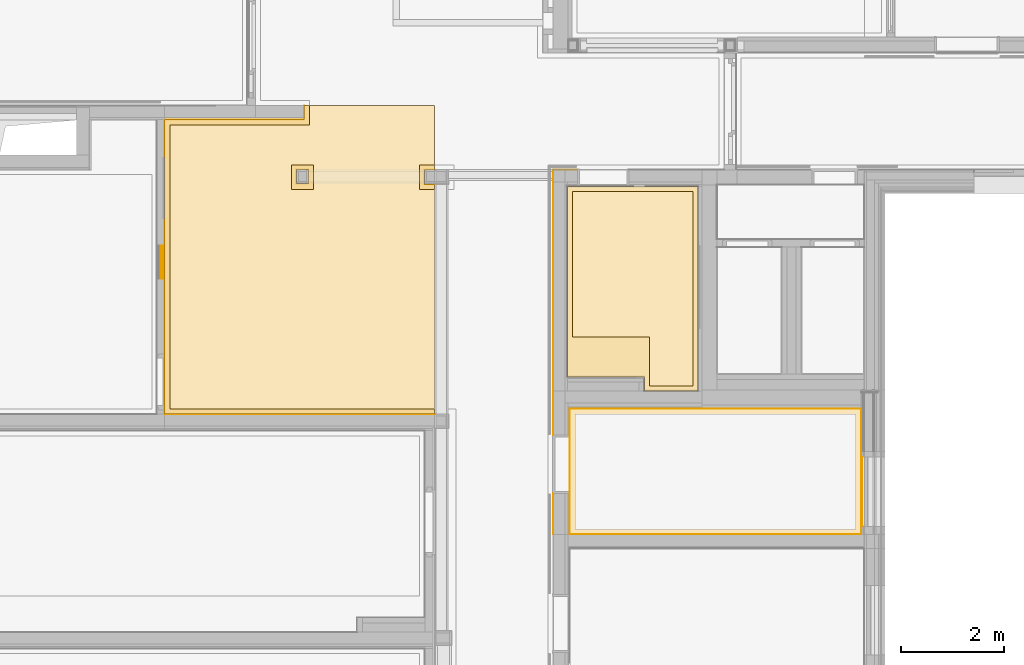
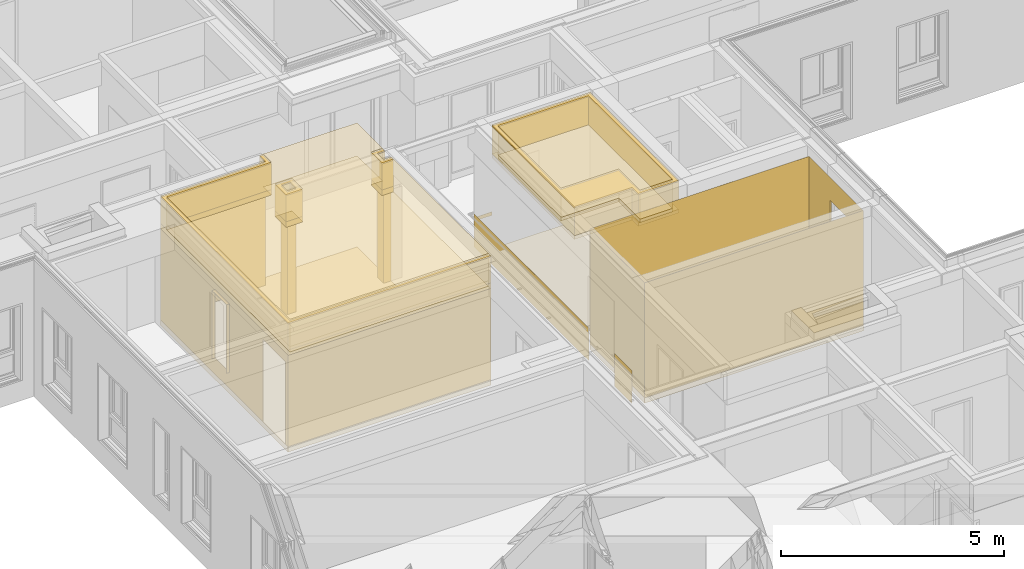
# One storey, part 172 of 222: 23 coverings.
"""IFC4 building model written with IfcOpenShell, lengths in metres."""

from ifc_helpers import new_model, entity, si_unit, converted_unit, derived_unit, frame, frame_2d, origin, origin_with_axes, place, context, subcontext, project, spatial, polyline, rectangle, outline, extrude, material, layer, layer_set, layer_usage, element, save


model = new_model("IFC4")

# Units and contexts
model_context = context("Model", 3, precision=1e-05, world=origin())
body_context = subcontext(model_context, "Body", "Model", "MODEL_VIEW")
ifc_project = project(units=[si_unit("LENGTHUNIT", "METRE"), si_unit("AREAUNIT", "SQUARE_METRE"), si_unit("VOLUMEUNIT", "CUBIC_METRE"), si_unit("MASSUNIT", "GRAM", prefix="KILO"), converted_unit("PLANEANGLEUNIT", "DEGREE", entity("IfcPlaneAngleMeasure", 0.0174532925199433), si_unit("PLANEANGLEUNIT", "RADIAN"), dimensions=[0, 0, 0, 0, 0, 0, 0]), derived_unit("THERMALTRANSMITTANCEUNIT", [(si_unit("POWERUNIT", "WATT"), 1), (si_unit("THERMODYNAMICTEMPERATUREUNIT", "KELVIN"), -1), (si_unit("LENGTHUNIT", "METRE"), -2)]), derived_unit("VOLUMETRICFLOWRATEUNIT", [(si_unit("LENGTHUNIT", "METRE"), 3), (converted_unit("TIMEUNIT", "hour", entity("IfcTimeMeasure", 3600.0), si_unit("TIMEUNIT", "SECOND"), dimensions=[0, 0, 1, 0, 0, 0, 0]), -1), (si_unit("LENGTHUNIT", "METRE"), -1)])], contexts=[model_context])

# Site, building, storey, space
site_placement = place(None, origin())
site = spatial("IfcSite", under=ifc_project, at=site_placement, Name="Psychiatrie Neubau Wunstorf", CompositionType="ELEMENT")
building_placement = place(site_placement, origin())
building = spatial("IfcBuilding", under=site, at=building_placement, Name="Neubau H2 Stationsgebäude", CompositionType="ELEMENT")
storey_placement = place(building_placement, frame((0.0, 0.0, 3.6)))
storey = spatial("IfcBuildingStorey", under=building, at=storey_placement, Name="H2 Ebene +1", CompositionType="ELEMENT", Elevation=3.6)
space_1_placement = place(storey_placement, frame((32.083, 0.550000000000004, 0.0)))
space_1 = spatial("IfcSpace", under=storey, at=space_1_placement, Name="WUN-H2-E01-F03", CompositionType="ELEMENT")

# Coverings
ifc_material_1 = material(Name="84")
ifc_layer_1 = layer(ifc_material_1, 0.001)
ifc_layer_set_1 = layer_set([ifc_layer_1])
ifc_layer_usage_1 = layer_usage(ifc_layer_set_1, "AXIS3", "POSITIVE", 0.0)
covering_1_placement = place(space_1_placement, frame((5.79949999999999, 12.9394966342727, 0.1)))
element("IfcCovering", 1, at=covering_1_placement, inside=space_1, material=ifc_layer_usage_1, Name="Acrovyn", PredefinedType="CLADDING", context=body_context, shape_type="SweptSolid", body=[
    extrude(rectangle(XDim=5.1609980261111, YDim=0.9, at=frame_2d((-2.58049901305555, 0.45), x_axis=(-1.0, 0.0))), frame((0.0, 7.09650139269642, 0.9), z_axis=(-1.0, -1.40979662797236e-15, -2.84933903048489e-30), x_axis=(-1.40979662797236e-15, 1.0, 0.0)), (0.0, 0.0, 1.0), 0.001),
    extrude(rectangle(XDim=0.9, YDim=0.800503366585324, at=frame_2d((-0.40025168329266, -0.45), x_axis=(4.04219867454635e-15, -1.0))), frame((0.0, 0.800503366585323, 0.0), z_axis=(-1.0, 0.0, 0.0), x_axis=(0.0, 1.0, 0.0)), (0.0, 0.0, 1.0), 0.001),
])
ifc_material_2 = material(Name="97")
ifc_layer_2 = layer(ifc_material_2, 0.001)
ifc_layer_set_2 = layer_set([ifc_layer_2])
ifc_layer_usage_2 = layer_usage(ifc_layer_set_2, "AXIS3", "POSITIVE", 0.0)
covering_2_placement = place(space_1_placement, frame((5.79949999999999, 12.9394966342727, 0.8)))
element("IfcCovering", 2, at=covering_2_placement, inside=space_1, material=ifc_layer_usage_2, Name="Handlauf", PredefinedType="CLADDING", context=body_context, shape_type="SweptSolid", body=[
    extrude(rectangle(XDim=5.1609980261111, YDim=0.1, at=frame_2d((-2.58049901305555, 0.05), x_axis=(-1.0, 0.0))), frame((0.0, 7.09650139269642, 0.1), z_axis=(-1.0, -1.40979662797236e-15, -2.5644051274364e-29), x_axis=(-1.40979662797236e-15, 1.0, 0.0)), (0.0, 0.0, 1.0), 0.001),
    extrude(rectangle(XDim=0.1, YDim=0.800503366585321, at=frame_2d((-0.400251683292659, -0.05), x_axis=(1.81898940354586e-14, -1.0))), frame((0.0, 0.800503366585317, 0.0), z_axis=(-1.0, 0.0, 0.0), x_axis=(0.0, 1.0, 0.0)), (0.0, 0.0, 1.0), 0.001),
    extrude(rectangle(XDim=0.467500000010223, YDim=0.1, at=frame_2d((0.233750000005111, -0.05), x_axis=(1.0, 0.0))), frame((0.0, 7.09650139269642, 0.0), z_axis=(0.0, 1.0, 0.0), x_axis=(1.0, 0.0, 0.0)), (0.0, 0.0, 1.0), 0.001),
])

# Space
space_2_placement = place(storey_placement, frame((38.1545, 16.2820060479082, 0.0)))
space_2 = spatial("IfcSpace", under=storey, at=space_2_placement, Name="WUN-H2-E01-009", CompositionType="ELEMENT")

# Coverings
ifc_material_3 = material()
ifc_layer_3 = layer(ifc_material_3, 0.036)
ifc_layer_set_3 = layer_set([ifc_layer_3])
ifc_layer_usage_3 = layer_usage(ifc_layer_set_3, "AXIS3", "POSITIVE", 0.0)
covering_3_placement = place(space_2_placement, frame((0.1, 0.0999999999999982, 3.55)))
element("IfcCovering", 3, at=covering_3_placement, inside=space_2, material=ifc_layer_usage_3, Name="Gipsfaserplatten 2-lagig (BSK)", PredefinedType="CEILING", context=body_context, shape_type="SweptSolid", body=[
    extrude(outline(polyline([(0.0, 0.0), (2.34950000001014, 0.0), (2.34950000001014, 3.78149197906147), (1.4995, 3.7819919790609), (1.4995, 2.83249197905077), (0.0, 2.83199197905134), (0.0, 0.0)])), frame((0.0, 3.7819919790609, 0.0), z_axis=(0.0, 0.0, -1.0), x_axis=(1.0, 0.0, 0.0)), (0.0, 0.0, 1.0), 0.036),
])
ifc_material_4 = material(Name="Installationshöhe")
ifc_layer_4 = layer(ifc_material_4, 0.764)
ifc_layer_set_4 = layer_set([ifc_layer_4])
ifc_layer_usage_4 = layer_usage(ifc_layer_set_4, "AXIS3", "POSITIVE", 0.0)
covering_4_placement = place(space_2_placement, frame((0.1, 0.0999999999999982, 3.514)))
element("IfcCovering", 4, at=covering_4_placement, inside=space_2, material=ifc_layer_usage_4, Name="Gipsfaserplatten 2-lagig (BSK)", PredefinedType="CEILING", context=body_context, shape_type="SweptSolid", body=[
    extrude(outline(polyline([(0.0, 0.0), (2.34950000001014, 0.0), (2.34950000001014, 3.78149197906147), (1.4995, 3.7819919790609), (1.4995, 2.83249197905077), (0.0, 2.83199197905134), (0.0, 0.0)])), frame((0.0, 3.7819919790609, 0.0), z_axis=(0.0, 0.0, -1.0), x_axis=(1.0, 0.0, 0.0)), (0.0, 0.0, 1.0), 0.764),
])
ifc_material_5 = material(Name="H7a")
ifc_layer_5 = layer(ifc_material_5, 0.1)
ifc_layer_set_5 = layer_set([ifc_layer_5])
ifc_layer_usage_5 = layer_usage(ifc_layer_set_5, "AXIS3", "POSITIVE", 0.0)
covering_5_placement = place(space_2_placement, frame((0.1, 0.0999999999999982, 2.75)))
element("IfcCovering", 5, at=covering_5_placement, inside=space_2, material=ifc_layer_usage_5, Name="Kühldecke glatt", PredefinedType="CEILING", context=body_context, shape_type="SweptSolid", body=[
    extrude(outline(polyline([(0.0, 0.0), (2.34950000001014, 0.0), (2.34950000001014, 3.78149197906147), (1.4995, 3.7819919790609), (1.4995, 2.83249197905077), (0.0, 2.83199197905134), (0.0, 0.0)])), frame((0.0, 3.7819919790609, 0.0), z_axis=(0.0, 0.0, -1.0), x_axis=(1.0, 0.0, 0.0)), (0.0, 0.0, 1.0), 0.1),
])
ifc_material_6 = material(Name="D1")
ifc_layer_6 = layer(ifc_material_6, 0.001)
ifc_layer_set_6 = layer_set([ifc_layer_6])
ifc_layer_usage_6 = layer_usage(ifc_layer_set_6, "AXIS3", "POSITIVE", 0.0)
covering_6_placement = place(space_2_placement, frame((0.1, 0.0999999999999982, 2.65)))
element("IfcCovering", 6, at=covering_6_placement, inside=space_2, material=ifc_layer_usage_6, Name="Gipsfaserplatten 2-lagig (BSK)", PredefinedType="CEILING", context=body_context, shape_type="SweptSolid", body=[
    extrude(outline(polyline([(0.0, 0.0), (2.34950000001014, 0.0), (2.34950000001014, 3.78149197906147), (1.4995, 3.7819919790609), (1.4995, 2.83249197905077), (0.0, 2.83199197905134), (0.0, 0.0)])), frame((0.0, 3.7819919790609, 0.0), z_axis=(0.0, 0.0, -1.0), x_axis=(1.0, 0.0, 0.0)), (0.0, 0.0, 1.0), 0.001),
])
ifc_material_7 = material(Name="Ku1")
ifc_layer_7 = layer(ifc_material_7, 0.15)
ifc_layer_set_7 = layer_set([ifc_layer_7])
ifc_layer_usage_7 = layer_usage(ifc_layer_set_7, "AXIS3", "POSITIVE", 0.0)
covering_7_placement = place(space_2_placement, origin())
element("IfcCovering", 7, at=covering_7_placement, inside=space_2, material=ifc_layer_usage_7, Name="PVC Bahnenware Holzoptik", PredefinedType="FLOORING", context=body_context, shape_type="SweptSolid", body=[
    extrude(outline(polyline([(0.0, 3.9819919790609), (0.0, 0.275499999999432), (1.4995, 0.275), (1.4995, 0.0), (2.54950000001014, 0.000499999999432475), (2.54950000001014, 3.9819919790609), (0.0, 3.9819919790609)])), origin_with_axes(), (0.0, 0.0, 1.0), 0.15),
])
ifc_material_8 = material()
ifc_layer_8 = layer(ifc_material_8, 0.036)
ifc_layer_set_8 = layer_set([ifc_layer_8])
ifc_layer_usage_8 = layer_usage(ifc_layer_set_8, "AXIS3", "POSITIVE", 0.0)
covering_8_placement = place(space_2_placement, frame((0.0, 0.0, 3.55)))
element("IfcCovering", 8, at=covering_8_placement, inside=space_2, material=ifc_layer_usage_8, Name="Gipsfaserplatten 2-lagig (BSK)", PredefinedType="CEILING", context=body_context, shape_type="SweptSolid", body=[
    extrude(outline(polyline([(0.0, 3.70649197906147), (0.0, 0.0), (2.54950000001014, 0.0), (2.54950000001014, 3.98149197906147), (1.4995, 3.9819919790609), (1.4995, 3.7069919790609), (0.0, 3.70649197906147)]), holes=[polyline([(2.44950000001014, 0.1), (0.1, 0.1), (0.100000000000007, 2.93199197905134), (1.5995, 2.93249197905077), (1.5995, 3.8819919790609), (2.44950000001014, 3.88149197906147), (2.44950000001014, 0.1)])]), frame((0.0, 3.9819919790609, 0.0), z_axis=(0.0, 0.0, -1.0), x_axis=(1.0, 0.0, 0.0)), (0.0, 0.0, 1.0), 0.036),
])
ifc_material_9 = material(Name="Installationshöhe")
ifc_layer_9 = layer(ifc_material_9, 0.764)
ifc_layer_set_9 = layer_set([ifc_layer_9])
ifc_layer_usage_9 = layer_usage(ifc_layer_set_9, "AXIS3", "POSITIVE", 0.0)
covering_9_placement = place(space_2_placement, frame((0.0, 0.0, 3.514)))
element("IfcCovering", 9, at=covering_9_placement, inside=space_2, material=ifc_layer_usage_9, Name="Gipsfaserplatten 2-lagig (BSK)", PredefinedType="CEILING", context=body_context, shape_type="SweptSolid", body=[
    extrude(outline(polyline([(0.0, 3.70649197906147), (0.0, 0.0), (2.54950000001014, 0.0), (2.54950000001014, 3.98149197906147), (1.4995, 3.9819919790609), (1.4995, 3.7069919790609), (0.0, 3.70649197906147)]), holes=[polyline([(2.44950000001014, 0.1), (0.1, 0.1), (0.100000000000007, 2.93199197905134), (1.5995, 2.93249197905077), (1.5995, 3.8819919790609), (2.44950000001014, 3.88149197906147), (2.44950000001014, 0.1)])]), frame((0.0, 3.9819919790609, 0.0), z_axis=(0.0, 0.0, -1.0), x_axis=(1.0, 0.0, 0.0)), (0.0, 0.0, 1.0), 0.764),
])
ifc_material_10 = material(Name="H7a")
ifc_layer_10 = layer(ifc_material_10, 0.1)
ifc_layer_set_10 = layer_set([ifc_layer_10])
ifc_layer_usage_10 = layer_usage(ifc_layer_set_10, "AXIS3", "POSITIVE", 0.0)
covering_10_placement = place(space_2_placement, frame((0.0, 0.0, 2.75)))
element("IfcCovering", 10, at=covering_10_placement, inside=space_2, material=ifc_layer_usage_10, Name="Kühldecke glatt", PredefinedType="CEILING", context=body_context, shape_type="SweptSolid", body=[
    extrude(outline(polyline([(0.0, 3.70649197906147), (0.0, 0.0), (2.54950000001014, 0.0), (2.54950000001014, 3.98149197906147), (1.4995, 3.9819919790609), (1.4995, 3.7069919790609), (0.0, 3.70649197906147)]), holes=[polyline([(2.44950000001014, 0.1), (0.1, 0.1), (0.100000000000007, 2.93199197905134), (1.5995, 2.93249197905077), (1.5995, 3.8819919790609), (2.44950000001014, 3.88149197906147), (2.44950000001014, 0.1)])]), frame((0.0, 3.9819919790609, 0.0), z_axis=(0.0, 0.0, -1.0), x_axis=(1.0, 0.0, 0.0)), (0.0, 0.0, 1.0), 0.1),
])
ifc_material_11 = material(Name="D1")
ifc_layer_11 = layer(ifc_material_11, 0.001)
ifc_layer_set_11 = layer_set([ifc_layer_11])
ifc_layer_usage_11 = layer_usage(ifc_layer_set_11, "AXIS3", "POSITIVE", 0.0)
covering_11_placement = place(space_2_placement, frame((0.0, 0.0, 2.65)))
element("IfcCovering", 11, at=covering_11_placement, inside=space_2, material=ifc_layer_usage_11, Name="Gipsfaserplatten 2-lagig (BSK)", PredefinedType="CEILING", context=body_context, shape_type="SweptSolid", body=[
    extrude(outline(polyline([(0.0, 3.70649197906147), (0.0, 0.0), (2.54950000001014, 0.0), (2.54950000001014, 3.98149197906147), (1.4995, 3.9819919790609), (1.4995, 3.7069919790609), (0.0, 3.70649197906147)]), holes=[polyline([(2.44950000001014, 0.1), (0.1, 0.1), (0.100000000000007, 2.93199197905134), (1.5995, 2.93249197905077), (1.5995, 3.8819919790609), (2.44950000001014, 3.88149197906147), (2.44950000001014, 0.1)])]), frame((0.0, 3.9819919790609, 0.0), z_axis=(0.0, 0.0, -1.0), x_axis=(1.0, 0.0, 0.0)), (0.0, 0.0, 1.0), 0.001),
])

# Space
space_3_placement = place(storey_placement, frame((38.204, 13.4894966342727, 0.0)))
space_3 = spatial("IfcSpace", under=storey, at=space_3_placement, Name="WUN-H2-E01-010", CompositionType="ELEMENT")

# Coverings
ifc_material_12 = material(Name="Ku1")
ifc_layer_12 = layer(ifc_material_12, 0.15)
ifc_layer_set_12 = layer_set([ifc_layer_12])
ifc_layer_usage_12 = layer_usage(ifc_layer_set_12, "AXIS3", "POSITIVE", 0.0)
covering_12_placement = place(space_3_placement, origin())
element("IfcCovering", 12, at=covering_12_placement, inside=space_3, material=ifc_layer_usage_12, Name="PVC Bahnenware Holzoptik", PredefinedType="FLOORING", context=body_context, shape_type="SweptSolid", body=[
    extrude(outline(polyline([(0.0, 2.44600941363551), (0.000500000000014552, 0.0), (5.67600000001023, 0.0), (5.67600000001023, 2.44600941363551), (0.0, 2.44600941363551)])), origin_with_axes(), (0.0, 0.0, 1.0), 0.15),
])
ifc_material_13 = material(Name="49")
ifc_layer_13 = layer(ifc_material_13, 0.001)
ifc_layer_set_13 = layer_set([ifc_layer_13])
ifc_layer_usage_13 = layer_usage(ifc_layer_set_13, "AXIS3", "POSITIVE", 0.0)
covering_13_placement = place(space_3_placement, frame((0.0, 0.0, 0.15)))
element("IfcCovering", 13, at=covering_13_placement, inside=space_3, material=ifc_layer_usage_13, PredefinedType="CLADDING", context=body_context, shape_type="SweptSolid", body=[
    extrude(outline(polyline([(0.0, 3.15), (2.44600941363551, 3.15), (2.44600941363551, 0.0), (0.0, 0.0), (0.0, 3.15)]), holes=[polyline([(1.50550276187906, 2.75), (0.155502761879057, 2.75), (0.155502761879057, 0.635), (1.50550276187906, 0.635), (1.50550276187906, 2.75)])]), frame((5.67600000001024, 0.0, 3.15), z_axis=(-1.0, 0.0, 0.0), x_axis=(0.0, 1.0, 0.0)), (0.0, 0.0, 1.0), 0.001),
    extrude(rectangle(XDim=5.67600000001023, YDim=3.15, at=frame_2d((2.83800000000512, -1.575), x_axis=(1.0, 0.0))), frame((5.67600000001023, 2.44600941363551, 0.0), z_axis=(0.0, -1.0, 0.0), x_axis=(-1.0, 0.0, 0.0)), (0.0, 0.0, 1.0), 0.001),
    extrude(rectangle(XDim=2.44600946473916, YDim=3.15, at=frame_2d((1.22300473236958, -1.575), x_axis=(1.0, 0.0))), frame((0.0, 2.44600941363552, 0.0), z_axis=(0.999999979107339, 0.000204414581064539, 0.0), x_axis=(0.000204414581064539, -0.999999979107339, 0.0)), (0.0, 0.0, 1.0), 0.001),
    extrude(rectangle(XDim=5.67550000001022, YDim=3.15, at=frame_2d((2.83775000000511, -1.575), x_axis=(1.0, 0.0))), frame((0.000500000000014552, 0.0, 0.0), z_axis=(0.0, 1.0, 0.0), x_axis=(1.0, 0.0, 0.0)), (0.0, 0.0, 1.0), 0.001),
    extrude(rectangle(XDim=0.04, YDim=1.35, at=frame_2d((0.02, -0.674999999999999), x_axis=(1.0, 0.0))), frame((5.67600000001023, 0.155502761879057, 2.515), z_axis=(0.0, 0.0, -1.0), x_axis=(1.0, 0.0, 0.0)), (0.0, 0.0, 1.0), 0.001),
    extrude(rectangle(XDim=0.04, YDim=2.115, at=frame_2d((0.02, -1.0575), x_axis=(1.0, 0.0))), frame((5.67600000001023, 0.155502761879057, 0.4), z_axis=(0.0, 1.0, 0.0), x_axis=(1.0, 0.0, 0.0)), (0.0, 0.0, 1.0), 0.001),
    extrude(rectangle(XDim=2.115, YDim=0.04, at=frame_2d((-0.02, -1.0575), x_axis=(0.0, -1.0))), frame((5.67600000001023, 1.50550276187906, 0.4), z_axis=(-4.54747350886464e-14, -1.0, 0.0), x_axis=(-1.0, 4.54747350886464e-14, 0.0)), (0.0, 0.0, 1.0), 0.001),
])

# Space
space_4_placement = place(storey_placement, frame((30.3168490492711, 15.8324990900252, 0.0)))
space_4 = spatial("IfcSpace", under=storey, at=space_4_placement, Name="WUN-H2-E01-F03a", CompositionType="ELEMENT")

# Coverings
ifc_material_14 = material(Name="Ku1")
ifc_layer_14 = layer(ifc_material_14, 0.15)
ifc_layer_set_14 = layer_set([ifc_layer_14])
ifc_layer_usage_14 = layer_usage(ifc_layer_set_14, "AXIS3", "POSITIVE", 0.0)
covering_14_placement = place(space_4_placement, origin())
element("IfcCovering", 14, at=covering_14_placement, inside=space_4, material=ifc_layer_usage_14, Name="PVC Bahnenware Holzoptik", PredefinedType="FLOORING", context=body_context, shape_type="SweptSolid", body=[
    extrude(outline(polyline([(5.25315095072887, 0.0), (5.25315095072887, 4.47149724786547), (5.05714850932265, 4.47149724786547), (5.05714850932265, 4.75349724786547), (5.25315095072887, 4.75349724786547), (5.25315095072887, 6.00350090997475), (2.71615095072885, 6.00350090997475), (2.71615095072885, 5.73150090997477), (0.0, 5.73150090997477), (0.0, 0.0), (5.25315095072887, 0.0)]), holes=[polyline([(2.79814655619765, 4.48749821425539), (2.56614655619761, 4.48749821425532), (2.56615095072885, 4.75949990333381), (2.79814655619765, 4.75949990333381), (2.79814655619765, 4.48749821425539)])]), origin_with_axes(), (0.0, 0.0, 1.0), 0.15),
])
ifc_material_15 = material()
ifc_layer_15 = layer(ifc_material_15, 0.036)
ifc_layer_set_15 = layer_set([ifc_layer_15])
ifc_layer_usage_15 = layer_usage(ifc_layer_set_15, "AXIS3", "POSITIVE", 0.0)
covering_15_placement = place(space_4_placement, frame((0.0, 0.0, 3.55)))
element("IfcCovering", 15, at=covering_15_placement, inside=space_4, material=ifc_layer_usage_15, Name="Gipsfaserplatten 2-lagig (BSK)", PredefinedType="CEILING", context=body_context, shape_type="SweptSolid", body=[
    extrude(outline(polyline([(5.25315095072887, 6.00350090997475), (0.0, 6.00350090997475), (0.0, 0.271999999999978), (2.71615095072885, 0.271999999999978), (2.71615095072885, 0.0), (2.81615095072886, 0.0), (2.81615095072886, 0.37199999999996), (0.1, 0.37199999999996), (0.1, 5.90350090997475), (5.25315095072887, 5.90350090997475), (5.25315095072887, 6.00350090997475)])), frame((0.0, 6.00350090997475, 0.0), z_axis=(0.0, 0.0, -1.0), x_axis=(1.0, 0.0, 0.0)), (0.0, 0.0, 1.0), 0.036),
    extrude(outline(polyline([(0.431995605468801, 0.482), (0.0, 0.482), (0.0, 0.0), (0.431995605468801, 0.0), (0.431995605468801, 0.482)]), holes=[polyline([(0.331995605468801, 0.365999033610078), (0.331995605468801, 0.0939973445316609), (0.1, 0.0939973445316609), (0.0999956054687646, 0.365999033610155), (0.331995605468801, 0.365999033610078)])]), frame((2.46615095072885, 4.85349724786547, 0.0), z_axis=(0.0, 0.0, -1.0), x_axis=(1.0, 0.0, 0.0)), (0.0, 0.0, 1.0), 0.036),
    extrude(outline(polyline([(0.0, 0.0), (0.296002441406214, 0.0), (0.296002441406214, 0.1), (0.1, 0.1), (0.1, 0.382), (0.296002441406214, 0.382), (0.296002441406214, 0.481998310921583), (0.0, 0.481998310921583), (0.0, 0.0)])), frame((4.95714850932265, 4.85349724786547, 0.0), z_axis=(0.0, 0.0, -1.0), x_axis=(1.0, 0.0, 0.0)), (0.0, 0.0, 1.0), 0.036),
])
ifc_material_16 = material(Name="Installationshöhe")
ifc_layer_16 = layer(ifc_material_16, 0.714)
ifc_layer_set_16 = layer_set([ifc_layer_16])
ifc_layer_usage_16 = layer_usage(ifc_layer_set_16, "AXIS3", "POSITIVE", 0.0)
covering_16_placement = place(space_4_placement, frame((0.0, 0.0, 3.514)))
element("IfcCovering", 16, at=covering_16_placement, inside=space_4, material=ifc_layer_usage_16, Name="Gipsfaserplatten 2-lagig (BSK)", PredefinedType="CEILING", context=body_context, shape_type="SweptSolid", body=[
    extrude(outline(polyline([(5.25315095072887, 6.00350090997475), (0.0, 6.00350090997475), (0.0, 0.271999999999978), (2.71615095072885, 0.271999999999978), (2.71615095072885, 0.0), (2.81615095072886, 0.0), (2.81615095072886, 0.37199999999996), (0.1, 0.37199999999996), (0.1, 5.90350090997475), (5.25315095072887, 5.90350090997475), (5.25315095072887, 6.00350090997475)])), frame((0.0, 6.00350090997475, 0.0), z_axis=(0.0, 0.0, -1.0), x_axis=(1.0, 0.0, 0.0)), (0.0, 0.0, 1.0), 0.714),
    extrude(outline(polyline([(0.431995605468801, 0.482), (0.0, 0.482), (0.0, 0.0), (0.431995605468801, 0.0), (0.431995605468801, 0.482)]), holes=[polyline([(0.331995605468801, 0.365999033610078), (0.331995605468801, 0.0939973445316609), (0.1, 0.0939973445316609), (0.0999956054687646, 0.365999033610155), (0.331995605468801, 0.365999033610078)])]), frame((2.46615095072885, 4.85349724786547, 0.0), z_axis=(0.0, 0.0, -1.0), x_axis=(1.0, 0.0, 0.0)), (0.0, 0.0, 1.0), 0.714),
    extrude(outline(polyline([(0.0, 0.0), (0.296002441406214, 0.0), (0.296002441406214, 0.1), (0.1, 0.1), (0.1, 0.382), (0.296002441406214, 0.382), (0.296002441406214, 0.481998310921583), (0.0, 0.481998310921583), (0.0, 0.0)])), frame((4.95714850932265, 4.85349724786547, 0.0), z_axis=(0.0, 0.0, -1.0), x_axis=(1.0, 0.0, 0.0)), (0.0, 0.0, 1.0), 0.714),
])
ifc_material_17 = material(Name="A1")
ifc_layer_17 = layer(ifc_material_17, 0.15)
ifc_layer_set_17 = layer_set([ifc_layer_17])
ifc_layer_usage_17 = layer_usage(ifc_layer_set_17, "AXIS3", "POSITIVE", 0.0)
covering_17_placement = place(space_4_placement, frame((0.0, 0.0, 2.8)))
element("IfcCovering", 17, at=covering_17_placement, inside=space_4, material=ifc_layer_usage_17, Name="Gipsfaserplatten 2-lagig (BSK)", PredefinedType="CEILING", context=body_context, shape_type="SweptSolid", body=[
    extrude(outline(polyline([(5.25315095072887, 6.00350090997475), (0.0, 6.00350090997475), (0.0, 0.271999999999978), (2.71615095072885, 0.271999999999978), (2.71615095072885, 0.0), (2.81615095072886, 0.0), (2.81615095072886, 0.37199999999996), (0.1, 0.37199999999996), (0.1, 5.90350090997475), (5.25315095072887, 5.90350090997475), (5.25315095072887, 6.00350090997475)])), frame((0.0, 6.00350090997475, 0.0), z_axis=(0.0, 0.0, -1.0), x_axis=(1.0, 0.0, 0.0)), (0.0, 0.0, 1.0), 0.15),
    extrude(outline(polyline([(0.431995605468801, 0.482), (0.0, 0.482), (0.0, 0.0), (0.431995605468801, 0.0), (0.431995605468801, 0.482)]), holes=[polyline([(0.331995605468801, 0.365999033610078), (0.331995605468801, 0.0939973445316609), (0.1, 0.0939973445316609), (0.0999956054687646, 0.365999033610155), (0.331995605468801, 0.365999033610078)])]), frame((2.46615095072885, 4.85349724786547, 0.0), z_axis=(0.0, 0.0, -1.0), x_axis=(1.0, 0.0, 0.0)), (0.0, 0.0, 1.0), 0.15),
    extrude(outline(polyline([(0.0, 0.0), (0.296002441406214, 0.0), (0.296002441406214, 0.1), (0.1, 0.1), (0.1, 0.382), (0.296002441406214, 0.382), (0.296002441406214, 0.481998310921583), (0.0, 0.481998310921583), (0.0, 0.0)])), frame((4.95714850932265, 4.85349724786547, 0.0), z_axis=(0.0, 0.0, -1.0), x_axis=(1.0, 0.0, 0.0)), (0.0, 0.0, 1.0), 0.15),
])
ifc_material_18 = material(Name="D1")
ifc_layer_18 = layer(ifc_material_18, 0.001)
ifc_layer_set_18 = layer_set([ifc_layer_18])
ifc_layer_usage_18 = layer_usage(ifc_layer_set_18, "AXIS3", "POSITIVE", 0.0)
covering_18_placement = place(space_4_placement, frame((0.0, 0.0, 2.65)))
element("IfcCovering", 18, at=covering_18_placement, inside=space_4, material=ifc_layer_usage_18, Name="Gipsfaserplatten 2-lagig (BSK)", PredefinedType="CEILING", context=body_context, shape_type="SweptSolid", body=[
    extrude(outline(polyline([(5.25315095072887, 6.00350090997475), (0.0, 6.00350090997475), (0.0, 0.271999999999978), (2.71615095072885, 0.271999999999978), (2.71615095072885, 0.0), (2.81615095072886, 0.0), (2.81615095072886, 0.37199999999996), (0.1, 0.37199999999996), (0.1, 5.90350090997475), (5.25315095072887, 5.90350090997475), (5.25315095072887, 6.00350090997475)])), frame((0.0, 6.00350090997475, 0.0), z_axis=(0.0, 0.0, -1.0), x_axis=(1.0, 0.0, 0.0)), (0.0, 0.0, 1.0), 0.001),
    extrude(outline(polyline([(0.431995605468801, 0.482), (0.0, 0.482), (0.0, 0.0), (0.431995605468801, 0.0), (0.431995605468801, 0.482)]), holes=[polyline([(0.331995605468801, 0.365999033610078), (0.331995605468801, 0.0939973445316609), (0.1, 0.0939973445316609), (0.0999956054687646, 0.365999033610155), (0.331995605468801, 0.365999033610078)])]), frame((2.46615095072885, 4.85349724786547, 0.0), z_axis=(0.0, 0.0, -1.0), x_axis=(1.0, 0.0, 0.0)), (0.0, 0.0, 1.0), 0.001),
    extrude(outline(polyline([(0.0, 0.0), (0.296002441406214, 0.0), (0.296002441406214, 0.1), (0.1, 0.1), (0.1, 0.382), (0.296002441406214, 0.382), (0.296002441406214, 0.481998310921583), (0.0, 0.481998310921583), (0.0, 0.0)])), frame((4.95714850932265, 4.85349724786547, 0.0), z_axis=(0.0, 0.0, -1.0), x_axis=(1.0, 0.0, 0.0)), (0.0, 0.0, 1.0), 0.001),
])
ifc_material_19 = material()
ifc_layer_19 = layer(ifc_material_19, 0.036)
ifc_layer_set_19 = layer_set([ifc_layer_19])
ifc_layer_usage_19 = layer_usage(ifc_layer_set_19, "AXIS3", "POSITIVE", 0.0)
covering_19_placement = place(space_4_placement, frame((0.100000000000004, 0.1, 3.55)))
element("IfcCovering", 19, at=covering_19_placement, inside=space_4, material=ifc_layer_usage_19, Name="Gipsfaserplatten 2-lagig (BSK)", PredefinedType="CEILING", context=body_context, shape_type="SweptSolid", body=[
    extrude(outline(polyline([(5.15315095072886, 5.90350090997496), (0.0, 5.90350090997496), (0.0, 0.372000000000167), (2.71615095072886, 0.372000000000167), (2.71615095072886, 0.0), (5.15315095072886, 0.0), (5.15315095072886, 1.15000366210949), (4.85714850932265, 1.15000366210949), (4.85714850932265, 1.63200197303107), (5.15315095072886, 1.63200197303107), (5.15315095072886, 5.90350090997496)]), holes=[polyline([(2.36615095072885, 1.63200366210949), (2.79814655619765, 1.63200366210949), (2.79814655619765, 1.15000366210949), (2.36615095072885, 1.15000366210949), (2.36615095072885, 1.63200366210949)])]), frame((0.0, 5.90350090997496, 0.0), z_axis=(0.0, 0.0, -1.0), x_axis=(1.0, 0.0, 0.0)), (0.0, 0.0, 1.0), 0.036),
])
ifc_material_20 = material(Name="Installationshöhe")
ifc_layer_20 = layer(ifc_material_20, 0.714)
ifc_layer_set_20 = layer_set([ifc_layer_20])
ifc_layer_usage_20 = layer_usage(ifc_layer_set_20, "AXIS3", "POSITIVE", 0.0)
covering_20_placement = place(space_4_placement, frame((0.100000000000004, 0.1, 3.514)))
element("IfcCovering", 20, at=covering_20_placement, inside=space_4, material=ifc_layer_usage_20, Name="Gipsfaserplatten 2-lagig (BSK)", PredefinedType="CEILING", context=body_context, shape_type="SweptSolid", body=[
    extrude(outline(polyline([(5.15315095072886, 5.90350090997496), (0.0, 5.90350090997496), (0.0, 0.372000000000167), (2.71615095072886, 0.372000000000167), (2.71615095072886, 0.0), (5.15315095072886, 0.0), (5.15315095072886, 1.15000366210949), (4.85714850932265, 1.15000366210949), (4.85714850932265, 1.63200197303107), (5.15315095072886, 1.63200197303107), (5.15315095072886, 5.90350090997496)]), holes=[polyline([(2.36615095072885, 1.63200366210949), (2.79814655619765, 1.63200366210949), (2.79814655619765, 1.15000366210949), (2.36615095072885, 1.15000366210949), (2.36615095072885, 1.63200366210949)])]), frame((0.0, 5.90350090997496, 0.0), z_axis=(0.0, 0.0, -1.0), x_axis=(1.0, 0.0, 0.0)), (0.0, 0.0, 1.0), 0.714),
])
ifc_material_21 = material(Name="Aa")
ifc_layer_21 = layer(ifc_material_21, 0.15)
ifc_layer_set_21 = layer_set([ifc_layer_21])
ifc_layer_usage_21 = layer_usage(ifc_layer_set_21, "AXIS3", "POSITIVE", 0.0)
covering_21_placement = place(space_4_placement, frame((0.100000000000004, 0.1, 2.8)))
element("IfcCovering", 21, at=covering_21_placement, inside=space_4, material=ifc_layer_usage_21, Name="Gipsfaserplatten 2-lagig (BSK)", PredefinedType="CEILING", context=body_context, shape_type="SweptSolid", body=[
    extrude(outline(polyline([(5.15315095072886, 5.90350090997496), (0.0, 5.90350090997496), (0.0, 0.372000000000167), (2.71615095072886, 0.372000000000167), (2.71615095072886, 0.0), (5.15315095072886, 0.0), (5.15315095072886, 1.15000366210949), (4.85714850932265, 1.15000366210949), (4.85714850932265, 1.63200197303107), (5.15315095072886, 1.63200197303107), (5.15315095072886, 5.90350090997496)]), holes=[polyline([(2.36615095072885, 1.63200366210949), (2.79814655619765, 1.63200366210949), (2.79814655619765, 1.15000366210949), (2.36615095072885, 1.15000366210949), (2.36615095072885, 1.63200366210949)])]), frame((0.0, 5.90350090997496, 0.0), z_axis=(0.0, 0.0, -1.0), x_axis=(1.0, 0.0, 0.0)), (0.0, 0.0, 1.0), 0.15),
])
ifc_material_22 = material(Name="D1")
ifc_layer_22 = layer(ifc_material_22, 0.001)
ifc_layer_set_22 = layer_set([ifc_layer_22])
ifc_layer_usage_22 = layer_usage(ifc_layer_set_22, "AXIS3", "POSITIVE", 0.0)
covering_22_placement = place(space_4_placement, frame((0.100000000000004, 0.1, 2.65)))
element("IfcCovering", 22, at=covering_22_placement, inside=space_4, material=ifc_layer_usage_22, Name="Gipsfaserplatten 2-lagig (BSK)", PredefinedType="CEILING", context=body_context, shape_type="SweptSolid", body=[
    extrude(outline(polyline([(5.15315095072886, 5.90350090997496), (0.0, 5.90350090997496), (0.0, 0.372000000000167), (2.71615095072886, 0.372000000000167), (2.71615095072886, 0.0), (5.15315095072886, 0.0), (5.15315095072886, 1.15000366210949), (4.85714850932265, 1.15000366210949), (4.85714850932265, 1.63200197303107), (5.15315095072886, 1.63200197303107), (5.15315095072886, 5.90350090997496)]), holes=[polyline([(2.36615095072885, 1.63200366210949), (2.79814655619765, 1.63200366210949), (2.79814655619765, 1.15000366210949), (2.36615095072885, 1.15000366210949), (2.36615095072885, 1.63200366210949)])]), frame((0.0, 5.90350090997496, 0.0), z_axis=(0.0, 0.0, -1.0), x_axis=(1.0, 0.0, 0.0)), (0.0, 0.0, 1.0), 0.001),
])
ifc_material_23 = material(Name="49")
ifc_layer_23 = layer(ifc_material_23, 0.001)
ifc_layer_set_23 = layer_set([ifc_layer_23])
ifc_layer_usage_23 = layer_usage(ifc_layer_set_23, "AXIS3", "POSITIVE", 0.0)
covering_23_placement = place(space_4_placement, frame((-0.08, 0.0, 0.15)))
element("IfcCovering", 23, at=covering_23_placement, inside=space_4, material=ifc_layer_usage_23, PredefinedType="CLADDING", context=body_context, shape_type="SweptSolid", body=[
    extrude(rectangle(XDim=0.231995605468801, YDim=2.5, at=frame_2d((0.1159978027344, -1.25), x_axis=(1.0, 0.0))), frame((2.64615095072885, 4.75949990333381, 0.0), z_axis=(0.0, 1.0, 0.0), x_axis=(1.0, 0.0, 0.0)), (0.0, 0.0, 1.0), 0.001),
    extrude(rectangle(XDim=0.272001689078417, YDim=2.5, at=frame_2d((0.136000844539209, -1.25), x_axis=(1.0, 0.0))), frame((2.87814655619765, 4.75949990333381, 0.0), z_axis=(1.0, 0.0, 0.0), x_axis=(0.0, -1.0, 0.0)), (0.0, 0.0, 1.0), 0.001),
    extrude(rectangle(XDim=0.196002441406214, YDim=2.5, at=frame_2d((0.0980012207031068, -1.25), x_axis=(1.0, 0.0))), frame((5.33315095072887, 4.47149724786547, 0.0), z_axis=(0.0, -1.0, 0.0), x_axis=(-1.0, 0.0, 0.0)), (0.0, 0.0, 1.0), 0.001),
    extrude(rectangle(XDim=0.282, YDim=2.5, at=frame_2d((0.141, -1.25), x_axis=(1.0, 0.0))), frame((5.13714850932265, 4.47149724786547, 0.0), z_axis=(-1.0, 0.0, 0.0), x_axis=(0.0, 1.0, 0.0)), (0.0, 0.0, 1.0), 0.001),
    extrude(rectangle(XDim=0.196002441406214, YDim=2.5, at=frame_2d((0.0980012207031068, -1.25), x_axis=(1.0, 0.0))), frame((5.13714850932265, 4.75349724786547, 0.0), z_axis=(0.0, 1.0, 0.0), x_axis=(1.0, 0.0, 0.0)), (0.0, 0.0, 1.0), 0.001),
    extrude(rectangle(XDim=0.271999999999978, YDim=2.5, at=frame_2d((0.135999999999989, -1.25), x_axis=(1.0, 0.0))), frame((2.79615095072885, 6.00350090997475, 0.0), z_axis=(1.0, 0.0, 0.0), x_axis=(0.0, -1.0, 0.0)), (0.0, 0.0, 1.0), 0.001),
    extrude(rectangle(XDim=2.71615095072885, YDim=2.5, at=frame_2d((1.35807547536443, -1.25), x_axis=(1.0, 0.0))), frame((2.79615095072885, 5.73150090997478, 0.0), z_axis=(0.0, -1.0, 0.0), x_axis=(-1.0, 0.0, 0.0)), (0.0, 0.0, 1.0), 0.001),
    extrude(outline(polyline([(0.0, 2.5), (4.59649129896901, 2.5), (4.59649129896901, 0.24), (5.60649129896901, 0.24), (5.60649129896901, 2.5), (5.73150090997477, 2.5), (5.73150090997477, 0.0), (0.0, 0.0), (0.0, 2.5)]), holes=[polyline([(3.09896043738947, 2.06), (2.44901798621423, 2.06), (2.44901798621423, 0.18), (3.09896043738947, 0.18), (3.09896043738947, 2.06)])]), frame((0.08, 5.73150090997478, 2.5), z_axis=(1.0, 0.0, 0.0), x_axis=(0.0, -1.0, 0.0)), (0.0, 0.0, 1.0), 0.001),
    extrude(rectangle(XDim=5.25315095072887, YDim=2.5, at=frame_2d((2.62657547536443, -1.25), x_axis=(1.0, 0.0))), frame((0.08, 0.0, 0.0), z_axis=(0.0, 1.0, 0.0), x_axis=(1.0, 0.0, 0.0)), (0.0, 0.0, 1.0), 0.001),
    extrude(rectangle(XDim=0.232000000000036, YDim=2.5, at=frame_2d((0.116000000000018, -1.25), x_axis=(1.0, 0.0))), frame((2.87814655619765, 4.4874982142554, 0.0), z_axis=(3.29299805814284e-13, -1.0, 0.0), x_axis=(-1.0, -3.29299805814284e-13, 0.0)), (0.0, 0.0, 1.0), 0.001),
    extrude(rectangle(XDim=0.272001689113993, YDim=2.5, at=frame_2d((0.136000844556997, -1.25), x_axis=(1.0, 0.0))), frame((2.64614655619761, 4.48749821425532, 0.0), z_axis=(-0.999999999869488, 1.61562645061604e-05, 0.0), x_axis=(1.61562645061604e-05, 0.999999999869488, 0.0)), (0.0, 0.0, 1.0), 0.001),
    extrude(rectangle(XDim=1.88, YDim=0.08, at=frame_2d((-0.04, -0.94), x_axis=(0.0, -1.0))), frame((0.0, 3.28248292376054, 0.44), z_axis=(0.0, -1.0, 0.0), x_axis=(-1.0, 0.0, 0.0)), (0.0, 0.0, 1.0), 0.001),
    extrude(rectangle(XDim=0.64994245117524, YDim=0.08, at=frame_2d((-0.04, -0.32497122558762), x_axis=(0.0, -1.0))), frame((0.08, 2.6325404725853, 2.32), z_axis=(0.0, 0.0, -1.0), x_axis=(1.0, 0.0, 0.0)), (0.0, 0.0, 1.0), 0.001),
    extrude(rectangle(XDim=1.88, YDim=0.08, at=frame_2d((-0.04, -0.94), x_axis=(0.0, -1.0))), frame((0.08, 2.6325404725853, 0.44), z_axis=(0.0, 1.0, 0.0), x_axis=(1.0, 0.0, 0.0)), (0.0, 0.0, 1.0), 0.001),
])

save(model, "model.ifc")
